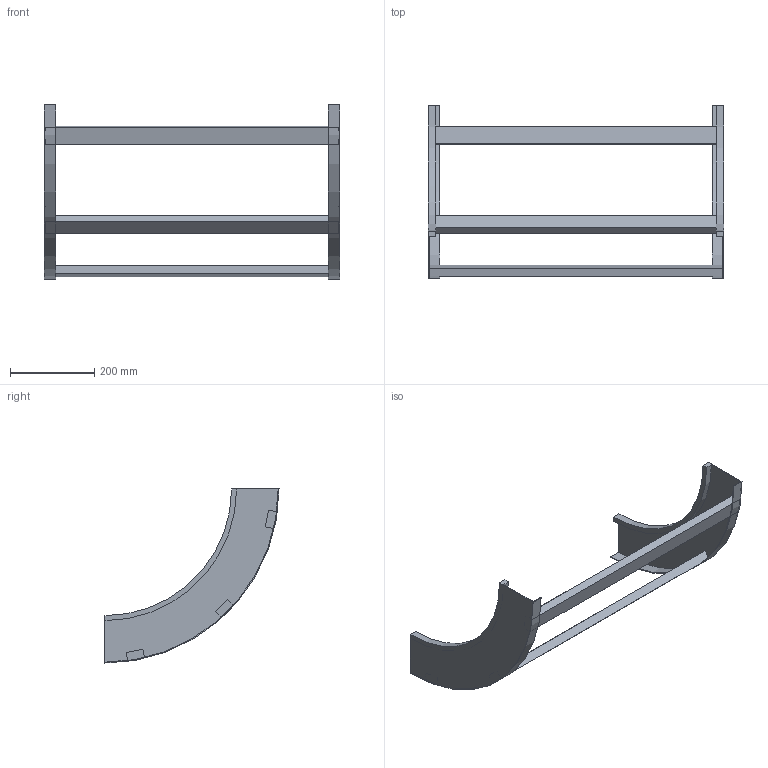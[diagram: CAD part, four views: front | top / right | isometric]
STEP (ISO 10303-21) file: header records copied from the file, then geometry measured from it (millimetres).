
FILE_DESCRIPTION (( 'STEP AP214' ), '1' );
FILE_NAME ('B2X30B3J700XX.step', '2025-03-20T10:22:58', ( '' ), ( '' ), 'SwSTEP 2.0', 'SolidWorks 2023', '' );
FILE_SCHEMA (( 'AUTOMOTIVE_DESIGN' ));
Length unit declared in the file: millimetre
Products named in the file (3): B2X30B3J700XX; B2_LONGH.SALITA_90°_H112.5_R300; TRAVERSINO_700
Assembly tree (5 placements, depth 2):
  B2X30B3J700XX
    B2_LONGH.SALITA_90°_H112.5_R300  x2
    TRAVERSINO_700  x3
Bounding box: 700 x 412.5 x 412.5 mm (x, y, z)
Volume: 2192311.4 mm3; surface area: 611071.8 mm2
Topology: 5 solids, 5 shells, 38 faces, 84 edges, 56 vertices
Faces by surface type: plane 30, cylinder 8
Entity records: 560 total; most frequent: DIRECTION 92, CARTESIAN_POINT 84, ORIENTED_EDGE 72, EDGE_CURVE 36, AXIS2_PLACEMENT_3D 32, VECTOR 28, LINE 28, VERTEX_POINT 24
